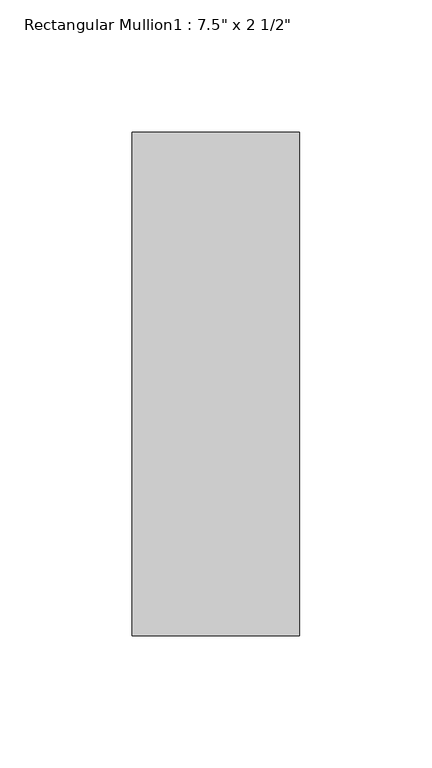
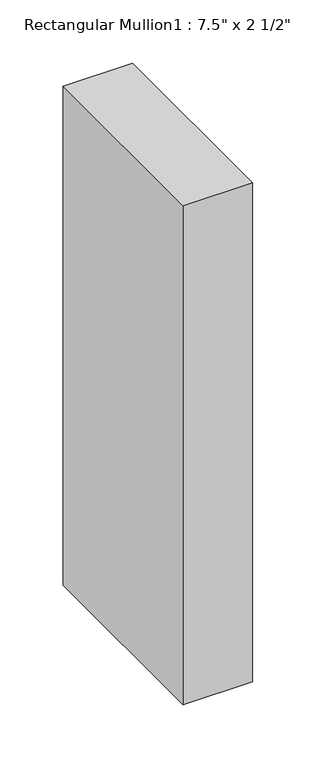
"""IFC4 building model written with IfcOpenShell, lengths in millimetres: member geometry."""

from ifc_helpers import new_model, si_unit, frame, origin, place, context, project, spatial, polyline, outline, extrude, source, transform, mapped, element, save


def member_910ef18f(model_context):
    return source(origin(), model_context, "Body", "SweptSolid", [
        extrude(outline(polyline([(31.75, 165.1), (31.75, -25.4), (-31.75, -25.4), (-31.75, 165.1), (31.75, 165.1)])), frame((0.0, 0.0, -482.6), z_axis=(0.0, 0.0, 1.0), x_axis=(1.0, 0.0, 0.0)), (0.0, 0.0, 1.0), 482.6),
    ])


if __name__ == "__main__":
    model = new_model("IFC4")
    model_context = context("Model", 3, world=origin())
    ifc_project = project(units=[si_unit("LENGTHUNIT", "METRE", prefix="MILLI")], contexts=[model_context])
    site = spatial("IfcSite", under=ifc_project)
    building = spatial("IfcBuilding", under=site)
    placement = place(None, origin())
    member_shape = member_910ef18f(model_context)
    element("IfcMember", 1, ObjectType="Rectangular Mullion1 : 7.5\" x 2 1/2\"", at=placement, inside=building, context=model_context, shape_type="MappedRepresentation", body=[
        mapped(member_shape, transform((0.0, 0.0, 0.0), x_axis=(1.0, 0.0, 0.0), y_axis=(0.0, 1.0, 0.0), z_axis=(0.0, 0.0, 1.0))),
    ])
    save(model, "model.ifc")
